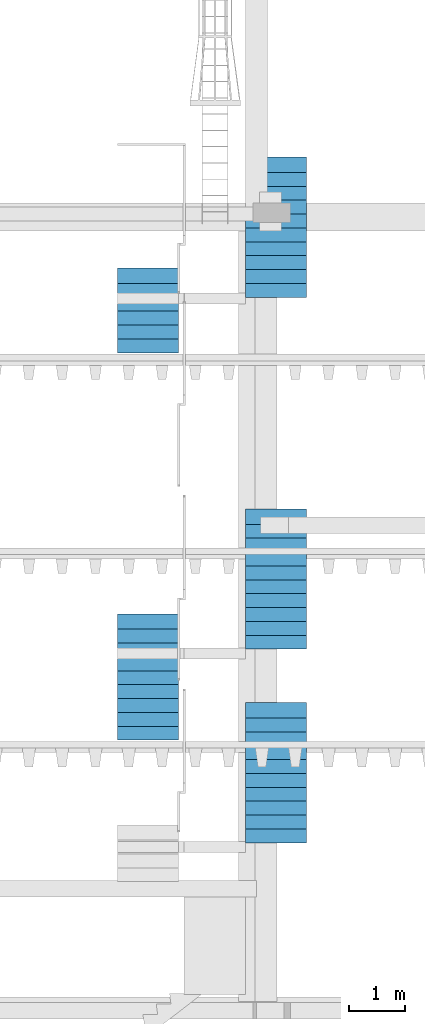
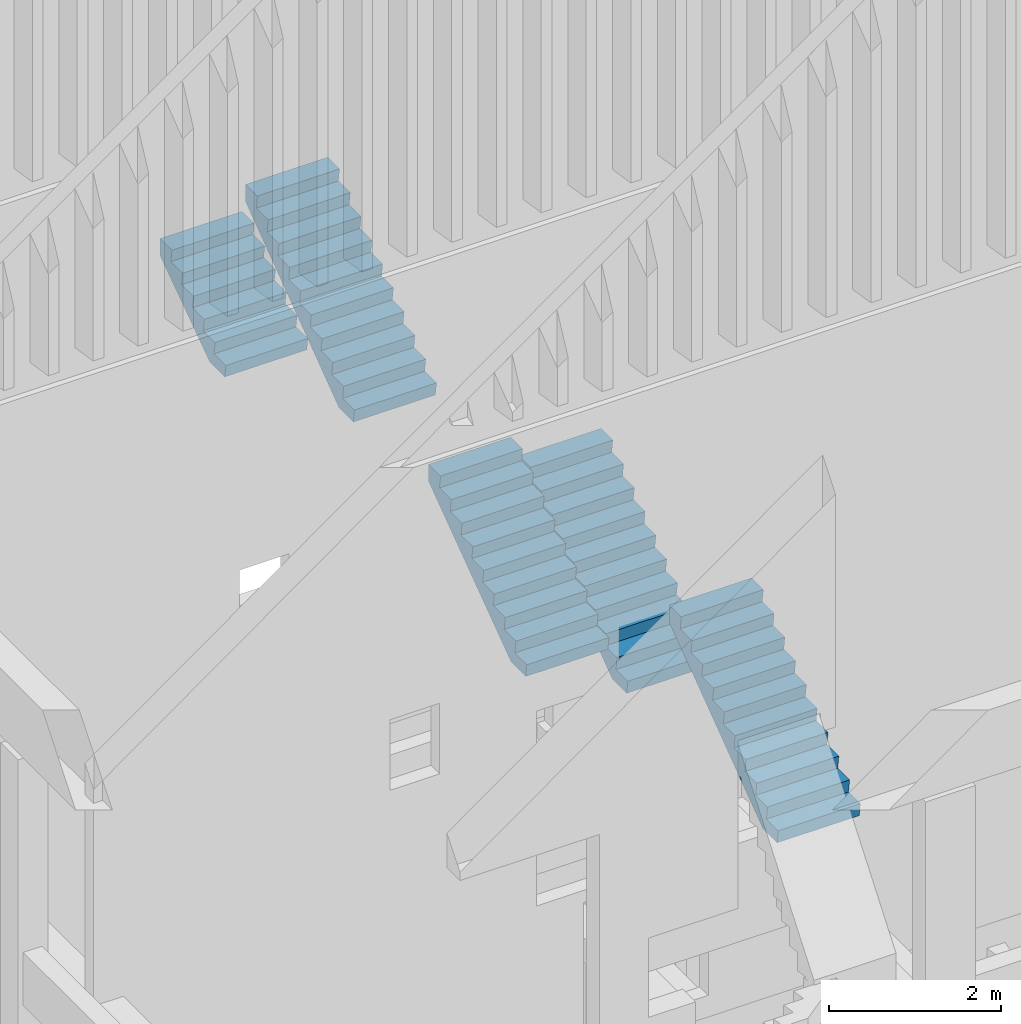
# One storey, part 5 of 15: 5 stairs.
"""IFC2X3 building model written with IfcOpenShell, lengths in metres."""

from ifc_helpers import new_model, entity, si_unit, converted_unit, derived_unit, money_unit, direction, frame, origin_with_axes, place, context, subcontext, project, spatial, faceted_brep, material, element, save


model = new_model("IFC2X3")

# Units and contexts
model_context = context("Model", 3, precision=1e-05, world=origin_with_axes(), true_north=direction((0.0, 1.0)))
body_context = subcontext(model_context, "Body", "Model", "MODEL_VIEW", scale=1.0)
ifc_project = project(units=[si_unit("LENGTHUNIT", "METRE"), si_unit("AREAUNIT", "SQUARE_METRE"), si_unit("VOLUMEUNIT", "CUBIC_METRE"), si_unit("ABSORBEDDOSEUNIT", "GRAY"), si_unit("AMOUNTOFSUBSTANCEUNIT", "MOLE"), si_unit("DOSEEQUIVALENTUNIT", "SIEVERT"), si_unit("ELECTRICCAPACITANCEUNIT", "FARAD"), si_unit("ELECTRICCHARGEUNIT", "COULOMB"), si_unit("ELECTRICCONDUCTANCEUNIT", "SIEMENS"), si_unit("ELECTRICCURRENTUNIT", "AMPERE"), si_unit("ELECTRICRESISTANCEUNIT", "OHM"), si_unit("ELECTRICVOLTAGEUNIT", "VOLT"), si_unit("ENERGYUNIT", "JOULE"), si_unit("FORCEUNIT", "NEWTON"), si_unit("FREQUENCYUNIT", "HERTZ"), si_unit("ILLUMINANCEUNIT", "LUX"), si_unit("INDUCTANCEUNIT", "HENRY"), si_unit("LUMINOUSFLUXUNIT", "LUMEN"), si_unit("LUMINOUSINTENSITYUNIT", "CANDELA"), si_unit("MAGNETICFLUXDENSITYUNIT", "TESLA"), si_unit("MAGNETICFLUXUNIT", "WEBER"), si_unit("MASSUNIT", "GRAM"), converted_unit("PLANEANGLEUNIT", "degree", entity("IfcReal", 0.0174532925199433), si_unit("PLANEANGLEUNIT", "RADIAN"), dimensions=[0, 0, 0, 0, 0, 0, 0]), si_unit("POWERUNIT", "WATT"), si_unit("PRESSUREUNIT", "PASCAL"), si_unit("RADIOACTIVITYUNIT", "BECQUEREL"), si_unit("SOLIDANGLEUNIT", "STERADIAN"), si_unit("THERMODYNAMICTEMPERATUREUNIT", "KELVIN"), si_unit("TIMEUNIT", "SECOND"), derived_unit("ACCELERATIONUNIT", [(si_unit("LENGTHUNIT", "METRE"), 1), (si_unit("TIMEUNIT", "SECOND"), -2)]), derived_unit("ANGULARVELOCITYUNIT", [(converted_unit("PLANEANGLEUNIT", "degree", entity("IfcReal", 0.0174532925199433), si_unit("PLANEANGLEUNIT", "RADIAN"), dimensions=[0, 0, 0, 0, 0, 0, 0]), 1), (si_unit("TIMEUNIT", "SECOND"), -1)]), derived_unit("CURVATUREUNIT", [(converted_unit("PLANEANGLEUNIT", "degree", entity("IfcReal", 0.0174532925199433), si_unit("PLANEANGLEUNIT", "RADIAN"), dimensions=[0, 0, 0, 0, 0, 0, 0]), 1), (si_unit("LENGTHUNIT", "METRE"), -1)]), derived_unit("DYNAMICVISCOSITYUNIT", [(si_unit("PRESSUREUNIT", "PASCAL"), 1), (si_unit("TIMEUNIT", "SECOND"), 1)]), derived_unit("HEATFLUXDENSITYUNIT", [(si_unit("POWERUNIT", "WATT"), 1), (si_unit("LENGTHUNIT", "METRE"), -2)]), derived_unit("HEATINGVALUEUNIT", [(si_unit("ENERGYUNIT", "JOULE"), 1), (si_unit("MASSUNIT", "GRAM"), -1)]), derived_unit("INTEGERCOUNTRATEUNIT", [(si_unit("TIMEUNIT", "SECOND"), -1)]), derived_unit("IONCONCENTRATIONUNIT", [(si_unit("MASSUNIT", "GRAM"), 1), (si_unit("VOLUMEUNIT", "CUBIC_METRE"), -1)]), derived_unit("ISOTHERMALMOISTURECAPACITYUNIT", [(si_unit("VOLUMEUNIT", "CUBIC_METRE"), 1), (si_unit("MASSUNIT", "GRAM"), -1)]), derived_unit("KINEMATICVISCOSITYUNIT", [(si_unit("AREAUNIT", "SQUARE_METRE"), 1), (si_unit("TIMEUNIT", "SECOND"), -1)]), derived_unit("LINEARFORCEUNIT", [(si_unit("FORCEUNIT", "NEWTON"), 1), (si_unit("LENGTHUNIT", "METRE"), -1)]), derived_unit("LINEARMOMENTUNIT", [(si_unit("FORCEUNIT", "NEWTON"), 1), (si_unit("LENGTHUNIT", "METRE"), -1)]), derived_unit("LINEARSTIFFNESSUNIT", [(si_unit("FORCEUNIT", "NEWTON"), 1), (si_unit("LENGTHUNIT", "METRE"), -1)]), derived_unit("LINEARVELOCITYUNIT", [(si_unit("LENGTHUNIT", "METRE"), 1), (si_unit("TIMEUNIT", "SECOND"), -1)]), derived_unit("LUMINOUSINTENSITYDISTRIBUTIONUNIT", [(si_unit("LUMINOUSINTENSITYUNIT", "CANDELA"), 1), (si_unit("LUMINOUSFLUXUNIT", "LUMEN"), -1)]), derived_unit("MASSDENSITYUNIT", [(si_unit("MASSUNIT", "GRAM"), 1), (si_unit("VOLUMEUNIT", "CUBIC_METRE"), -1)]), derived_unit("MASSFLOWRATEUNIT", [(si_unit("MASSUNIT", "GRAM"), 1), (si_unit("TIMEUNIT", "SECOND"), -1)]), derived_unit("MASSPERLENGTHUNIT", [(si_unit("MASSUNIT", "GRAM"), 1), (si_unit("LENGTHUNIT", "METRE"), -1)]), derived_unit("MODULUSOFELASTICITYUNIT", [(si_unit("FORCEUNIT", "NEWTON"), 1), (si_unit("AREAUNIT", "SQUARE_METRE"), -1)]), derived_unit("MODULUSOFLINEARSUBGRADEREACTIONUNIT", [(si_unit("FORCEUNIT", "NEWTON"), 1), (si_unit("LENGTHUNIT", "METRE"), -2)]), derived_unit("MODULUSOFROTATIONALSUBGRADEREACTIONUNIT", [(si_unit("FORCEUNIT", "NEWTON"), 1), (si_unit("LENGTHUNIT", "METRE"), 1)]), derived_unit("MODULUSOFSUBGRADEREACTIONUNIT", [(si_unit("FORCEUNIT", "NEWTON"), 1), (si_unit("VOLUMEUNIT", "CUBIC_METRE"), -1)]), derived_unit("MOISTUREDIFFUSIVITYUNIT", [(si_unit("VOLUMEUNIT", "CUBIC_METRE"), 1), (si_unit("TIMEUNIT", "SECOND"), -1)]), derived_unit("MOLECULARWEIGHTUNIT", [(si_unit("MASSUNIT", "GRAM"), 1), (si_unit("AMOUNTOFSUBSTANCEUNIT", "MOLE"), -1)]), derived_unit("PLANARFORCEUNIT", [(si_unit("FORCEUNIT", "NEWTON"), 1), (si_unit("LENGTHUNIT", "METRE"), -2)]), derived_unit("ROTATIONALFREQUENCYUNIT", [(si_unit("TIMEUNIT", "SECOND"), -1)]), derived_unit("ROTATIONALMASSUNIT", [(si_unit("MASSUNIT", "GRAM"), 1), (si_unit("LENGTHUNIT", "METRE"), 2)]), derived_unit("ROTATIONALSTIFFNESSUNIT", [(si_unit("FORCEUNIT", "NEWTON"), 1), (si_unit("LENGTHUNIT", "METRE"), 1), (converted_unit("PLANEANGLEUNIT", "degree", entity("IfcReal", 0.0174532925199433), si_unit("PLANEANGLEUNIT", "RADIAN"), dimensions=[0, 0, 0, 0, 0, 0, 0]), -1)]), derived_unit("SECTIONAREAINTEGRALUNIT", [(si_unit("LENGTHUNIT", "METRE"), 5)]), derived_unit("SECTIONMODULUSUNIT", [(si_unit("LENGTHUNIT", "METRE"), 3)]), derived_unit("SHEARMODULUSUNIT", [(si_unit("FORCEUNIT", "NEWTON"), 1), (si_unit("AREAUNIT", "SQUARE_METRE"), -1)]), derived_unit("SOUNDPOWERUNIT", [(si_unit("ENERGYUNIT", "JOULE"), 1), (si_unit("TIMEUNIT", "SECOND"), -1)]), derived_unit("SPECIFICHEATCAPACITYUNIT", [(si_unit("FORCEUNIT", "NEWTON"), 1), (si_unit("MASSUNIT", "GRAM"), -1), (si_unit("THERMODYNAMICTEMPERATUREUNIT", "KELVIN"), -1)]), derived_unit("TEMPERATUREGRADIENTUNIT", [(si_unit("THERMODYNAMICTEMPERATUREUNIT", "KELVIN"), 1), (si_unit("LENGTHUNIT", "METRE"), -1)]), derived_unit("THERMALADMITTANCEUNIT", [(si_unit("POWERUNIT", "WATT"), 1), (si_unit("AREAUNIT", "SQUARE_METRE"), -1), (si_unit("THERMODYNAMICTEMPERATUREUNIT", "KELVIN"), -1)]), derived_unit("THERMALCONDUCTANCEUNIT", [(si_unit("POWERUNIT", "WATT"), 1), (si_unit("LENGTHUNIT", "METRE"), -1), (si_unit("THERMODYNAMICTEMPERATUREUNIT", "KELVIN"), -1)]), derived_unit("THERMALEXPANSIONCOEFFICIENTUNIT", [(si_unit("THERMODYNAMICTEMPERATUREUNIT", "KELVIN"), -1)]), derived_unit("THERMALRESISTANCEUNIT", [(si_unit("AREAUNIT", "SQUARE_METRE"), 1), (si_unit("POWERUNIT", "WATT"), -1)]), derived_unit("THERMALTRANSMITTANCEUNIT", [(si_unit("POWERUNIT", "WATT"), 1), (si_unit("AREAUNIT", "SQUARE_METRE"), -1), (si_unit("THERMODYNAMICTEMPERATUREUNIT", "KELVIN"), -1)]), derived_unit("TORQUEUNIT", [(si_unit("FORCEUNIT", "NEWTON"), 1), (si_unit("LENGTHUNIT", "METRE"), 1)]), derived_unit("VAPORPERMEABILITYUNIT", [(si_unit("MASSUNIT", "GRAM"), 1), (si_unit("TIMEUNIT", "SECOND"), -1)]), derived_unit("VOLUMETRICFLOWRATEUNIT", [(si_unit("VOLUMEUNIT", "CUBIC_METRE"), 1), (si_unit("TIMEUNIT", "SECOND"), -1)]), derived_unit("WARPINGCONSTANTUNIT", [(si_unit("LENGTHUNIT", "METRE"), 6)]), derived_unit("WARPINGMOMENTUNIT", [(si_unit("FORCEUNIT", "NEWTON"), 1), (si_unit("LENGTHUNIT", "METRE"), 2)]), money_unit("GBP")], contexts=[model_context])

# Site, building, storey
site_placement = place(None, origin_with_axes())
site = spatial("IfcSite", under=ifc_project, at=site_placement, Name="Site", CompositionType="ELEMENT")
building_placement = place(site_placement, origin_with_axes())
building = spatial("IfcBuilding", under=site, at=building_placement, Name="Building01", CompositionType="ELEMENT")
storey_placement = place(building_placement, origin_with_axes())
storey = spatial("IfcBuildingStorey", under=building, at=storey_placement, Name="GF", CompositionType="ELEMENT", Elevation=0.0)

# Stairs
ifc_material = material(Name="S_BSUK_Stairs")
stair_1_placement = place(storey_placement, frame((6.35, 12.13, 14.405859), z_axis=(0.0, 1.0, 0.0), x_axis=(0.0, 0.0, 1.0)))
element("IfcStair", 1, at=stair_1_placement, inside=storey, material=ifc_material, Name="S-Stairs-ConcreteRC", ObjectType="S-Stairs-ConcreteRC", ShapeType="NOTDEFINED", context=body_context, shape_type="Brep", body=[
    faceted_brep([(0.0, 1.1, 0.0), (0.0, 1.1, 0.348759), (0.805869, 1.1, 1.5), (1.05, 1.1, 1.5), (1.05, 1.1, 1.225), (0.875, 1.1, 1.25), (0.875, 1.1, 0.975), (0.7, 1.1, 1.0), (0.7, 1.1, 0.725), (0.525, 1.1, 0.75), (0.525, 1.1, 0.475), (0.35, 1.1, 0.5), (0.35, 1.1, 0.225), (0.175, 1.1, 0.25), (0.175, 1.1, -0.025), (0.0, 0.0, 0.0), (0.0, 0.0, 0.348759), (0.805869, 0.0, 1.5), (1.05, 0.0, 1.5), (1.05, 0.0, 1.225), (0.875, 0.0, 1.25), (0.875, 0.0, 0.975), (0.7, 0.0, 1.0), (0.7, 0.0, 0.725), (0.525, 0.0, 0.75), (0.525, 0.0, 0.475), (0.35, 0.0, 0.5), (0.35, 0.0, 0.225), (0.175, 0.0, 0.25), (0.175, 0.0, -0.025)], [[[0, 1, 2, 3, 4, 5, 6, 7, 8, 9, 10, 11, 12, 13, 14]], [[15, 16, 1, 0]], [[16, 17, 2, 1]], [[17, 18, 3, 2]], [[18, 19, 4, 3]], [[19, 20, 5, 4]], [[20, 21, 6, 5]], [[21, 22, 7, 6]], [[22, 23, 8, 7]], [[23, 24, 9, 8]], [[24, 25, 10, 9]], [[25, 26, 11, 10]], [[26, 27, 12, 11]], [[27, 28, 13, 12]], [[28, 29, 14, 13]], [[29, 15, 0, 14]], [[15, 29, 28, 27, 26, 25, 24, 23, 22, 21, 20, 19, 18, 17, 16]]]),
])
stair_2_placement = place(storey_placement, frame((6.35, 5.15, 14.397098), z_axis=(0.0, 1.0, 0.0), x_axis=(0.00051581, 0.0, 0.99999987)))
element("IfcStair", 2, at=stair_2_placement, inside=storey, material=ifc_material, Name="S-Stairs-ConcreteRC", ObjectType="S-Stairs-ConcreteRC", ShapeType="NOTDEFINED", context=body_context, shape_type="Brep", body=[
    faceted_brep([(0.000567, 1.1, 0.0), (0.000567, 1.1, 0.339544), (1.393077, 1.099282, 2.25), (1.640567, 1.099154, 2.25), (1.640567, 1.099154, 1.975), (1.458345, 1.099248, 2.0), (1.458345, 1.099248, 1.725), (1.276123, 1.099342, 1.75), (1.276123, 1.099342, 1.475), (1.093901, 1.099436, 1.5), (1.093901, 1.099436, 1.225), (0.911678, 1.09953, 1.25), (0.911678, 1.09953, 0.975), (0.729456, 1.099624, 1.0), (0.729456, 1.099624, 0.725), (0.547234, 1.099718, 0.75), (0.547234, 1.099718, 0.475), (0.365012, 1.099812, 0.5), (0.365012, 1.099812, 0.225), (0.18279, 1.099906, 0.25), (0.18279, 1.099906, -0.025), (0.0, 0.0, 0.0), (0.0, 0.0, 0.339544), (1.39251, -0.000718, 2.25), (1.64, -0.000846, 2.25), (1.64, -0.000846, 1.975), (1.457778, -0.000752, 2.0), (1.457778, -0.000752, 1.725), (1.275555, -0.000658, 1.75), (1.275555, -0.000658, 1.475), (1.093333, -0.000564, 1.5), (1.093333, -0.000564, 1.225), (0.911111, -0.00047, 1.25), (0.911111, -0.00047, 0.975), (0.728889, -0.000376, 1.0), (0.728889, -0.000376, 0.725), (0.546667, -0.000282, 0.75), (0.546667, -0.000282, 0.475), (0.364444, -0.000188, 0.5), (0.364444, -0.000188, 0.225), (0.182222, -9.4e-05, 0.25), (0.182222, -9.4e-05, -0.025)], [[[0, 1, 2, 3, 4, 5, 6, 7, 8, 9, 10, 11, 12, 13, 14, 15, 16, 17, 18, 19, 20]], [[21, 22, 1, 0]], [[22, 23, 2, 1]], [[23, 24, 3, 2]], [[24, 25, 4, 3]], [[25, 26, 5, 4]], [[26, 27, 6, 5]], [[27, 28, 7, 6]], [[28, 29, 8, 7]], [[29, 30, 9, 8]], [[30, 31, 10, 9]], [[31, 32, 11, 10]], [[32, 33, 12, 11]], [[33, 34, 13, 12]], [[34, 35, 14, 13]], [[35, 36, 15, 14]], [[36, 37, 16, 15]], [[37, 38, 17, 16]], [[38, 39, 18, 17]], [[39, 40, 19, 18]], [[40, 41, 20, 19]], [[41, 21, 0, 20]], [[21, 41, 40, 39, 38, 37, 36, 35, 34, 33, 32, 31, 30, 29, 28, 27, 26, 25, 24, 23, 22]]]),
])
for number, where, z_axis, x_axis in (
    (3, (8.65, 6.79, 12.359584), (0.0, 1.0, 0.0), (0.0, 0.0, 1.0)),
    (4, (8.65, 3.3, 12.359584), (0.0, 1.0, 0.0), (0.0, 0.0, 1.0)),
    (5, (8.65, 13.13, 12.355), (0.0, 1.0, 0.0), (0.0, 0.0, 1.0)),
):
    element("IfcStair", number, at=place(storey_placement, frame(where, z_axis=z_axis, x_axis=x_axis)), inside=storey, material=ifc_material, Name="S-Stairs-ConcreteRC", ObjectType="S-Stairs-ConcreteRC", ShapeType="NOTDEFINED", context=body_context, shape_type="Brep", body=[
        faceted_brep([(0.0, 1.1, 0.0), (0.0, 1.1, 0.336223), (1.601195, 1.1, 2.5), (1.85, 1.1, 2.5), (1.85, 1.1, 2.225), (1.665, 1.1, 2.25), (1.665, 1.1, 1.975), (1.48, 1.1, 2.0), (1.48, 1.1, 1.725), (1.295, 1.1, 1.75), (1.295, 1.1, 1.475), (1.11, 1.1, 1.5), (1.11, 1.1, 1.225), (0.925, 1.1, 1.25), (0.925, 1.1, 0.975), (0.74, 1.1, 1.0), (0.74, 1.1, 0.725), (0.555, 1.1, 0.75), (0.555, 1.1, 0.475), (0.37, 1.1, 0.5), (0.37, 1.1, 0.225), (0.185, 1.1, 0.25), (0.185, 1.1, -0.025), (0.0, 0.0, 0.0), (0.0, 0.0, 0.336223), (1.601195, 0.0, 2.5), (1.85, 0.0, 2.5), (1.85, 0.0, 2.225), (1.665, 0.0, 2.25), (1.665, 0.0, 1.975), (1.48, 0.0, 2.0), (1.48, 0.0, 1.725), (1.295, 0.0, 1.75), (1.295, 0.0, 1.475), (1.11, 0.0, 1.5), (1.11, 0.0, 1.225), (0.925, 0.0, 1.25), (0.925, 0.0, 0.975), (0.74, 0.0, 1.0), (0.74, 0.0, 0.725), (0.555, 0.0, 0.75), (0.555, 0.0, 0.475), (0.37, 0.0, 0.5), (0.37, 0.0, 0.225), (0.185, 0.0, 0.25), (0.185, 0.0, -0.025)], [[[0, 1, 2, 3, 4, 5, 6, 7, 8, 9, 10, 11, 12, 13, 14, 15, 16, 17, 18, 19, 20, 21, 22]], [[23, 24, 1, 0]], [[24, 25, 2, 1]], [[25, 26, 3, 2]], [[26, 27, 4, 3]], [[27, 28, 5, 4]], [[28, 29, 6, 5]], [[29, 30, 7, 6]], [[30, 31, 8, 7]], [[31, 32, 9, 8]], [[32, 33, 10, 9]], [[33, 34, 11, 10]], [[34, 35, 12, 11]], [[35, 36, 13, 12]], [[36, 37, 14, 13]], [[37, 38, 15, 14]], [[38, 39, 16, 15]], [[39, 40, 17, 16]], [[40, 41, 18, 17]], [[41, 42, 19, 18]], [[42, 43, 20, 19]], [[43, 44, 21, 20]], [[44, 45, 22, 21]], [[45, 23, 0, 22]], [[23, 45, 44, 43, 42, 41, 40, 39, 38, 37, 36, 35, 34, 33, 32, 31, 30, 29, 28, 27, 26, 25, 24]]]),
    ])

save(model, "model.ifc")
